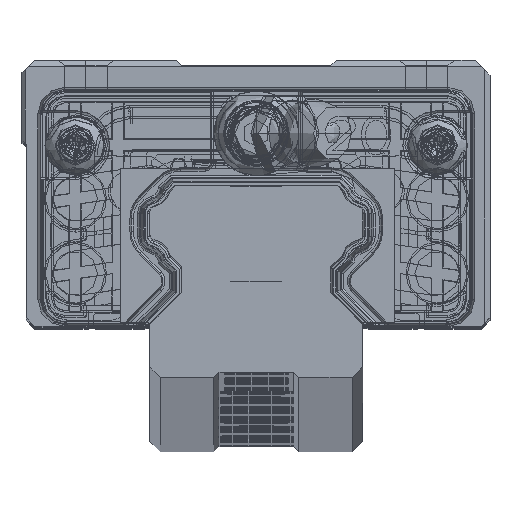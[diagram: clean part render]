
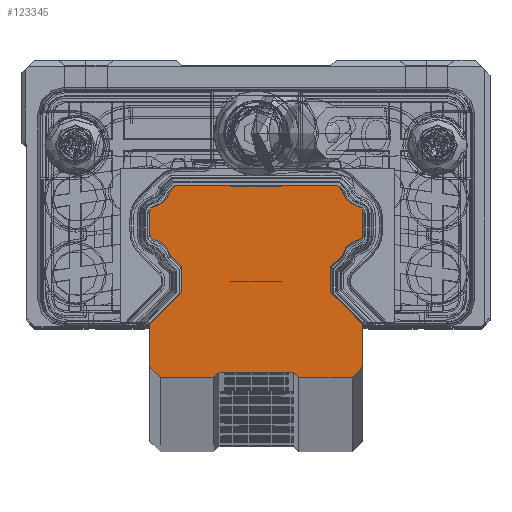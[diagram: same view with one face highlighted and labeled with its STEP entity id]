
A CAD part, top view. The second image highlights one B-rep face of the part: STEP entity #123345.
In plain terms, the highlighted planar face has unit normal (0, 0, 1).
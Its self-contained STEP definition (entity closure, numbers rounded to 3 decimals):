
#112441=DIRECTION('',(0.707,0.707,0.));
#112442=VECTOR('',#112441,0.707);
#112443=CARTESIAN_POINT('',(-4.,-14.5,500.));
#112444=LINE('',#112443,#112442);
#112499=DIRECTION('',(-1.,0.,0.));
#112500=VECTOR('',#112499,15.156);
#112501=CARTESIAN_POINT('',(7.578,3.5,500.));
#112502=LINE('',#112501,#112500);
#113173=DIRECTION('',(-0.707,-0.707,0.));
#113174=VECTOR('',#113173,0.706);
#113175=CARTESIAN_POINT('',(-7.578,3.5,500.));
#113176=LINE('',#113175,#113174);
#113534=DIRECTION('',(0.707,-0.707,0.));
#113535=VECTOR('',#113534,0.707);
#113536=CARTESIAN_POINT('',(3.5,-14.,500.));
#113537=LINE('',#113536,#113535);
#115987=DIRECTION('',(1.,0.,0.));
#115988=VECTOR('',#115987,7.);
#115989=CARTESIAN_POINT('',(-3.5,-14.,500.));
#115990=LINE('',#115989,#115988);
#116161=DIRECTION('',(-0.707,0.707,0.));
#116162=VECTOR('',#116161,1.523);
#116163=CARTESIAN_POINT('',(-7.,-4.079,500.));
#116164=LINE('',#116163,#116162);
#116165=CARTESIAN_POINT('',(-10.011,-3.511,500.));
#116166=DIRECTION('',(0.,0.,1.));
#116167=DIRECTION('',(0.967,0.254,0.));
#116168=AXIS2_PLACEMENT_3D('',#116165,#116166,#116167);
#116170=CARTESIAN_POINT('',(-9.5,-1.064,500.));
#116171=DIRECTION('',(0.,0.,-1.));
#116172=DIRECTION('',(-0.204,-0.979,0.));
#116173=AXIS2_PLACEMENT_3D('',#116170,#116171,#116172);
#116175=DIRECTION('',(0.,1.,0.));
#116176=VECTOR('',#116175,2.128);
#116177=CARTESIAN_POINT('',(-10.,-1.064,500.));
#116178=LINE('',#116177,#116176);
#116179=CARTESIAN_POINT('',(-9.5,1.064,500.));
#116180=DIRECTION('',(0.,0.,-1.));
#116181=DIRECTION('',(-1.,0.,0.));
#116182=AXIS2_PLACEMENT_3D('',#116179,#116180,#116181);
#116184=CARTESIAN_POINT('',(-10.011,3.511,500.));
#116185=DIRECTION('',(0.,0.,1.));
#116186=DIRECTION('',(0.206,-0.979,0.));
#116187=AXIS2_PLACEMENT_3D('',#116184,#116185,#116186);
#116189=CARTESIAN_POINT('',(10.011,3.511,500.));
#116190=DIRECTION('',(0.,0.,1.));
#116191=DIRECTION('',(-0.967,-0.255,0.));
#116192=AXIS2_PLACEMENT_3D('',#116189,#116190,#116191);
#116194=CARTESIAN_POINT('',(9.5,1.064,500.));
#116195=DIRECTION('',(0.,0.,-1.));
#116196=DIRECTION('',(0.204,0.979,0.));
#116197=AXIS2_PLACEMENT_3D('',#116194,#116195,#116196);
#116199=DIRECTION('',(0.,-1.,0.));
#116200=VECTOR('',#116199,2.128);
#116201=CARTESIAN_POINT('',(10.,1.064,500.));
#116202=LINE('',#116201,#116200);
#116203=CARTESIAN_POINT('',(9.5,-1.064,500.));
#116204=DIRECTION('',(0.,0.,-1.));
#116205=DIRECTION('',(1.,0.,0.));
#116206=AXIS2_PLACEMENT_3D('',#116203,#116204,#116205);
#116208=CARTESIAN_POINT('',(10.011,-3.511,500.));
#116209=DIRECTION('',(0.,0.,1.));
#116210=DIRECTION('',(-0.206,0.979,0.));
#116211=AXIS2_PLACEMENT_3D('',#116208,#116209,#116210);
#116213=DIRECTION('',(-0.707,-0.707,0.));
#116214=VECTOR('',#116213,1.523);
#116215=CARTESIAN_POINT('',(8.077,-3.003,500.));
#116216=LINE('',#116215,#116214);
#116217=DIRECTION('',(0.,-1.,0.));
#116218=VECTOR('',#116217,2.421);
#116219=CARTESIAN_POINT('',(7.,-4.079,500.));
#116220=LINE('',#116219,#116218);
#116221=DIRECTION('',(0.707,-0.707,0.));
#116222=VECTOR('',#116221,4.243);
#116223=CARTESIAN_POINT('',(7.,-6.5,500.));
#116224=LINE('',#116223,#116222);
#116225=DIRECTION('',(0.,-1.,0.));
#116226=VECTOR('',#116225,4.);
#116227=CARTESIAN_POINT('',(10.,-9.5,500.));
#116228=LINE('',#116227,#116226);
#116229=DIRECTION('',(-0.707,-0.707,0.));
#116230=VECTOR('',#116229,1.414);
#116231=CARTESIAN_POINT('',(10.,-13.5,500.));
#116232=LINE('',#116231,#116230);
#116233=DIRECTION('',(-1.,0.,0.));
#116234=VECTOR('',#116233,5.);
#116235=CARTESIAN_POINT('',(9.,-14.5,500.));
#116236=LINE('',#116235,#116234);
#116237=DIRECTION('',(-1.,0.,0.));
#116238=VECTOR('',#116237,5.);
#116239=CARTESIAN_POINT('',(-4.,-14.5,500.));
#116240=LINE('',#116239,#116238);
#116241=DIRECTION('',(-0.707,0.707,0.));
#116242=VECTOR('',#116241,1.414);
#116243=CARTESIAN_POINT('',(-9.,-14.5,500.));
#116244=LINE('',#116243,#116242);
#116245=DIRECTION('',(0.,1.,0.));
#116246=VECTOR('',#116245,4.);
#116247=CARTESIAN_POINT('',(-10.,-13.5,500.));
#116248=LINE('',#116247,#116246);
#116249=DIRECTION('',(0.707,0.707,0.));
#116250=VECTOR('',#116249,4.243);
#116251=CARTESIAN_POINT('',(-10.,-9.5,500.));
#116252=LINE('',#116251,#116250);
#116253=DIRECTION('',(0.,1.,0.));
#116254=VECTOR('',#116253,2.421);
#116255=CARTESIAN_POINT('',(-7.,-6.5,500.));
#116256=LINE('',#116255,#116254);
#116257=DIRECTION('',(-0.707,0.707,0.));
#116258=VECTOR('',#116257,0.706);
#116259=CARTESIAN_POINT('',(8.077,3.001,500.));
#116260=LINE('',#116259,#116258);
#116922=CARTESIAN_POINT('',(-7.,-4.079,500.));
#116924=VERTEX_POINT('',#116922);
#116927=CARTESIAN_POINT('',(-8.077,-3.003,500.));
#116928=VERTEX_POINT('',#116927);
#116930=CARTESIAN_POINT('',(-7.,-6.5,500.));
#116932=VERTEX_POINT('',#116930);
#116934=CARTESIAN_POINT('',(-10.,-9.5,500.));
#116936=VERTEX_POINT('',#116934);
#116938=CARTESIAN_POINT('',(-10.,-13.5,500.));
#116940=VERTEX_POINT('',#116938);
#116942=CARTESIAN_POINT('',(-9.,-14.5,500.));
#116944=VERTEX_POINT('',#116942);
#116946=CARTESIAN_POINT('',(-4.,-14.5,500.));
#116948=VERTEX_POINT('',#116946);
#116955=CARTESIAN_POINT('',(-3.5,-14.,500.));
#116956=VERTEX_POINT('',#116955);
#117055=CARTESIAN_POINT('',(3.5,-14.,500.));
#117056=VERTEX_POINT('',#117055);
#117237=CARTESIAN_POINT('',(-7.578,3.5,500.));
#117239=VERTEX_POINT('',#117237);
#117243=CARTESIAN_POINT('',(7.578,3.5,500.));
#117244=VERTEX_POINT('',#117243);
#117638=CARTESIAN_POINT('',(-8.077,3.001,500.));
#117640=VERTEX_POINT('',#117638);
#117642=CARTESIAN_POINT('',(-9.601,1.554,500.));
#117644=VERTEX_POINT('',#117642);
#117645=CARTESIAN_POINT('',(-10.,1.064,500.));
#117647=VERTEX_POINT('',#117645);
#117650=CARTESIAN_POINT('',(-10.,-1.064,500.));
#117652=VERTEX_POINT('',#117650);
#117654=CARTESIAN_POINT('',(-9.602,-1.553,500.));
#117656=VERTEX_POINT('',#117654);
#117681=CARTESIAN_POINT('',(4.,-14.5,500.));
#117682=VERTEX_POINT('',#117681);
#117683=CARTESIAN_POINT('',(8.077,3.001,500.));
#117684=VERTEX_POINT('',#117683);
#117685=CARTESIAN_POINT('',(9.602,1.553,500.));
#117686=VERTEX_POINT('',#117685);
#117687=CARTESIAN_POINT('',(10.,1.064,500.));
#117688=VERTEX_POINT('',#117687);
#117689=CARTESIAN_POINT('',(10.,-1.064,500.));
#117690=VERTEX_POINT('',#117689);
#117691=CARTESIAN_POINT('',(9.6,-1.554,500.));
#117692=VERTEX_POINT('',#117691);
#117693=CARTESIAN_POINT('',(8.077,-3.003,500.));
#117694=VERTEX_POINT('',#117693);
#117695=CARTESIAN_POINT('',(7.,-4.079,500.));
#117696=VERTEX_POINT('',#117695);
#117697=CARTESIAN_POINT('',(7.,-6.5,500.));
#117698=VERTEX_POINT('',#117697);
#117699=CARTESIAN_POINT('',(10.,-9.5,500.));
#117700=VERTEX_POINT('',#117699);
#117701=CARTESIAN_POINT('',(10.,-13.5,500.));
#117702=VERTEX_POINT('',#117701);
#117703=CARTESIAN_POINT('',(9.,-14.5,500.));
#117704=VERTEX_POINT('',#117703);
#123298=CARTESIAN_POINT('',(0.,0.,500.));
#123299=DIRECTION('',(0.,0.,1.));
#123300=DIRECTION('',(1.,0.,0.));
#123301=AXIS2_PLACEMENT_3D('',#123298,#123299,#123300);
#123302=PLANE('',#123301);
#123303=ORIENTED_EDGE('',*,*,#118116,.T.);
#123304=ORIENTED_EDGE('',*,*,#118886,.T.);
#123305=ORIENTED_EDGE('',*,*,#118872,.T.);
#123306=ORIENTED_EDGE('',*,*,#118857,.T.);
#123307=ORIENTED_EDGE('',*,*,#118842,.T.);
#123308=ORIENTED_EDGE('',*,*,#118827,.T.);
#123309=ORIENTED_EDGE('',*,*,#118812,.F.);
#123310=ORIENTED_EDGE('',*,*,#118397,.F.);
#123312=ORIENTED_EDGE('',*,*,#123311,.F.);
#123314=ORIENTED_EDGE('',*,*,#123313,.T.);
#123316=ORIENTED_EDGE('',*,*,#123315,.T.);
#123318=ORIENTED_EDGE('',*,*,#123317,.T.);
#123320=ORIENTED_EDGE('',*,*,#123319,.T.);
#123322=ORIENTED_EDGE('',*,*,#123321,.T.);
#123324=ORIENTED_EDGE('',*,*,#123323,.T.);
#123326=ORIENTED_EDGE('',*,*,#123325,.T.);
#123328=ORIENTED_EDGE('',*,*,#123327,.T.);
#123330=ORIENTED_EDGE('',*,*,#123329,.T.);
#123332=ORIENTED_EDGE('',*,*,#123331,.T.);
#123334=ORIENTED_EDGE('',*,*,#123333,.T.);
#123335=ORIENTED_EDGE('',*,*,#119071,.F.);
#123336=ORIENTED_EDGE('',*,*,#123190,.F.);
#123337=ORIENTED_EDGE('',*,*,#118208,.F.);
#123338=ORIENTED_EDGE('',*,*,#118191,.T.);
#123339=ORIENTED_EDGE('',*,*,#118176,.T.);
#123340=ORIENTED_EDGE('',*,*,#118161,.T.);
#123341=ORIENTED_EDGE('',*,*,#118146,.T.);
#123342=ORIENTED_EDGE('',*,*,#118131,.T.);
#123343=EDGE_LOOP('',(#123303,#123304,#123305,#123306,#123307,#123308,#123309,
#123310,#123312,#123314,#123316,#123318,#123320,#123322,#123324,#123326,#123328,
#123330,#123332,#123334,#123335,#123336,#123337,#123338,#123339,#123340,#123341,
#123342));
#123344=FACE_OUTER_BOUND('',#123343,.F.);
#123345=ADVANCED_FACE('',(#123344),#123302,.T.);
#116169=CIRCLE('',#116168,2.);
#116174=CIRCLE('',#116173,0.5);
#116183=CIRCLE('',#116182,0.5);
#116188=CIRCLE('',#116187,2.);
#116193=CIRCLE('',#116192,2.);
#116198=CIRCLE('',#116197,0.5);
#116207=CIRCLE('',#116206,0.5);
#116212=CIRCLE('',#116211,2.);
#118116=EDGE_CURVE('',#116924,#116928,#116164,.T.);
#118131=EDGE_CURVE('',#116932,#116924,#116256,.T.);
#118146=EDGE_CURVE('',#116936,#116932,#116252,.T.);
#118161=EDGE_CURVE('',#116940,#116936,#116248,.T.);
#118176=EDGE_CURVE('',#116944,#116940,#116244,.T.);
#118191=EDGE_CURVE('',#116948,#116944,#116240,.T.);
#118208=EDGE_CURVE('',#116948,#116956,#112444,.T.);
#118397=EDGE_CURVE('',#117244,#117239,#112502,.T.);
#118812=EDGE_CURVE('',#117239,#117640,#113176,.T.);
#118827=EDGE_CURVE('',#117644,#117640,#116188,.T.);
#118842=EDGE_CURVE('',#117647,#117644,#116183,.T.);
#118857=EDGE_CURVE('',#117652,#117647,#116178,.T.);
#118872=EDGE_CURVE('',#117656,#117652,#116174,.T.);
#118886=EDGE_CURVE('',#116928,#117656,#116169,.T.);
#119071=EDGE_CURVE('',#117056,#117682,#113537,.T.);
#123190=EDGE_CURVE('',#116956,#117056,#115990,.T.);
#123311=EDGE_CURVE('',#117684,#117244,#116260,.T.);
#123313=EDGE_CURVE('',#117684,#117686,#116193,.T.);
#123315=EDGE_CURVE('',#117686,#117688,#116198,.T.);
#123317=EDGE_CURVE('',#117688,#117690,#116202,.T.);
#123319=EDGE_CURVE('',#117690,#117692,#116207,.T.);
#123321=EDGE_CURVE('',#117692,#117694,#116212,.T.);
#123323=EDGE_CURVE('',#117694,#117696,#116216,.T.);
#123325=EDGE_CURVE('',#117696,#117698,#116220,.T.);
#123327=EDGE_CURVE('',#117698,#117700,#116224,.T.);
#123329=EDGE_CURVE('',#117700,#117702,#116228,.T.);
#123331=EDGE_CURVE('',#117702,#117704,#116232,.T.);
#123333=EDGE_CURVE('',#117704,#117682,#116236,.T.);
